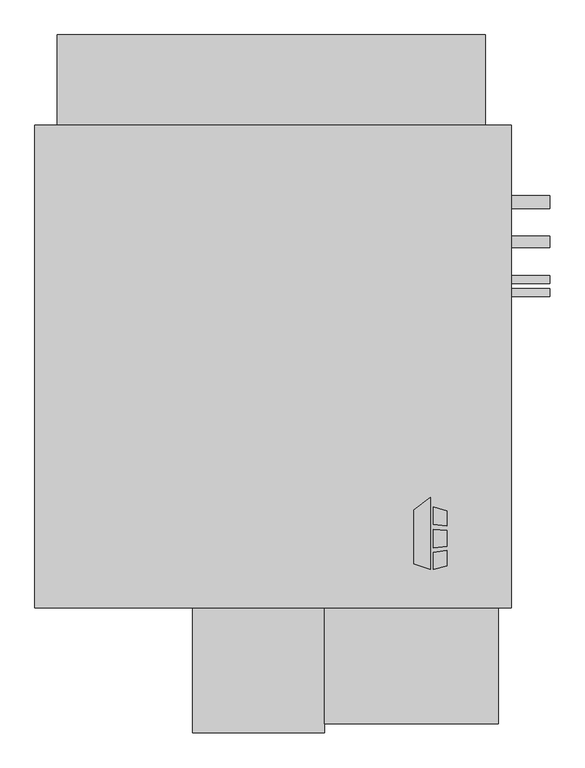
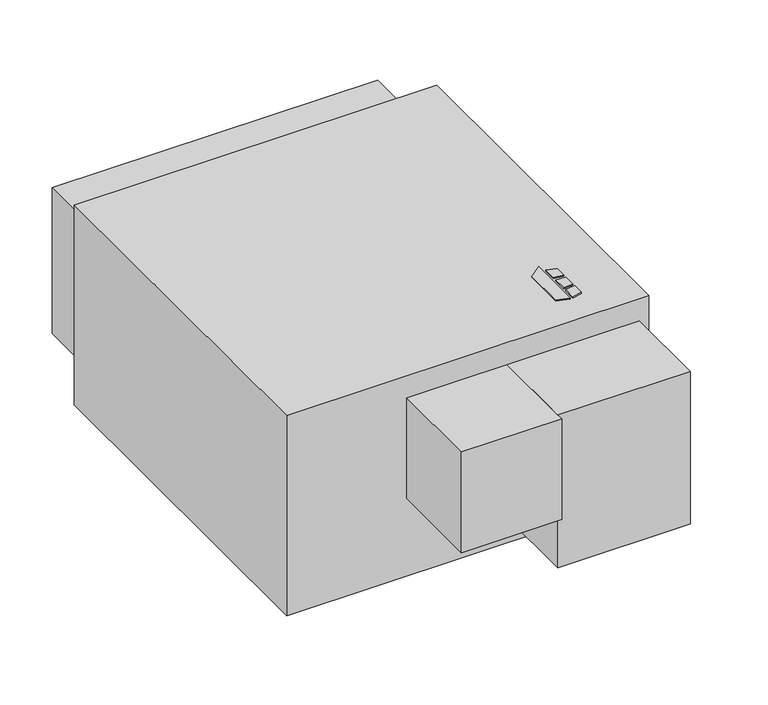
"""IFC4 building model written with IfcOpenShell, lengths in millimetres: proxy geometry, Horizontal_Direct_Drive_Blower_Coil_Unit_-_HDY_-_IEC_-_4-Pipe_RH_2022 : Size 10 - 460v/60Hz/3Ph - 6/2 Coil."""

from ifc_helpers import new_model, si_unit, point, frame, frame_2d, origin, origin_with_axes, place, context, project, spatial, polyline, circle_curve, trimmed, segment, composite_curve, outline, extrude, source, transform, mapped, element, save


def mechanical_equipment_957e46f4(model_context):
    return source(origin(), model_context, "Body", "SweptSolid", [
        extrude(outline(polyline([(-319.3980239, -267.6578476), (-286.8397272, -242.2205184), (-286.8397272, -384.175), (-319.3980239, -373.9554201), (-319.3980239, -267.6578476)])), origin_with_axes(), (0.0, 0.0, 1.0), 3.175),
        extrude(outline(polyline([(-280.0813942, -295.529852), (-280.0813942, -261.0499379), (-254.0, -269.2365115), (-254.0, -298.7322446), (-280.0813942, -295.529852)])), origin_with_axes(), (0.0, 0.0, 1.0), 3.175),
        extrude(outline(polyline([(-254.0, -377.1865115), (-280.0813942, -384.175), (-280.0813942, -350.9536996), (-254.0, -347.4118564), (-254.0, -377.1865115)])), origin_with_axes(), (0.0, 0.0, 1.0), 3.175),
        extrude(outline(polyline([(-254.0, -307.8138277), (-254.0, -339.063983), (-280.0813942, -341.805248), (-280.0813942, -305.9475378), (-254.0, -307.8138277)])), origin_with_axes(), (0.0, 0.0, 1.0), 3.175),
        extrude(outline(polyline([(-127.0, 492.125), (-127.0, -460.375), (-1066.8, -460.375), (-1066.8, 492.125), (-127.0, 492.125)])), frame((0.0, 0.0, -549.2558174), z_axis=(0.0, 0.0, 1.0), x_axis=(1.0, 0.0, 0.0)), (0.0, 0.0, 1.0), 549.2558174),
        extrude(outline(polyline([(-152.4, -688.975), (-495.3, -688.975), (-495.3, -460.375), (-152.4, -460.375), (-152.4, -688.975)])), frame((0.0, 0.0, -479.4058174), z_axis=(0.0, 0.0, 1.0), x_axis=(1.0, 0.0, 0.0)), (0.0, 0.0, 1.0), 419.1),
        extrude(outline(composite_curve([segment(trimmed(circle_curve(frame_2d((339.725, -180.7500418)), 12.7), [point((352.425, -180.7500418))], [point((327.025, -180.7500418))], False, "CARTESIAN"), True, "CONTINUOUS"), segment(trimmed(circle_curve(frame_2d((339.725, -180.7500418)), 12.7), [point((327.025, -180.7500418))], [point((352.425, -180.7500418))], False, "CARTESIAN"), True, "CONTINUOUS")], self_intersect=False)), frame((-127.0, 0.0, 0.0), z_axis=(1.0, 0.0, 0.0), x_axis=(0.0, 1.0, 0.0)), (0.0, 0.0, 1.0), 76.2),
        extrude(outline(composite_curve([segment(trimmed(circle_curve(frame_2d((339.725, -422.2558174)), 12.7), [point((352.425, -422.2558174))], [point((327.025, -422.2558174))], False, "CARTESIAN"), True, "CONTINUOUS"), segment(trimmed(circle_curve(frame_2d((339.725, -422.2558174)), 12.7), [point((327.025, -422.2558174))], [point((352.425, -422.2558174))], False, "CARTESIAN"), True, "CONTINUOUS")], self_intersect=False)), frame((-127.0, 0.0, 0.0), z_axis=(1.0, 0.0, 0.0), x_axis=(0.0, 1.0, 0.0)), (0.0, 0.0, 1.0), 76.2),
        extrude(outline(composite_curve([segment(trimmed(circle_curve(frame_2d((261.7604089, -504.8058174)), 11.1125), [point((272.8729089, -504.8058174))], [point((250.6479089, -504.8058174))], False, "CARTESIAN"), True, "CONTINUOUS"), segment(trimmed(circle_curve(frame_2d((261.7604089, -504.8058174)), 11.1125), [point((250.6479089, -504.8058174))], [point((272.8729089, -504.8058174))], False, "CARTESIAN"), True, "CONTINUOUS")], self_intersect=False)), frame((-127.0, 0.0, 0.0), z_axis=(1.0, 0.0, 0.0), x_axis=(0.0, 1.0, 0.0)), (0.0, 0.0, 1.0), 76.2),
        extrude(outline(composite_curve([segment(trimmed(circle_curve(frame_2d((187.325, -231.7558174)), 7.9375), [point((195.2625, -231.7558174))], [point((179.3875, -231.7558174))], False, "CARTESIAN"), True, "CONTINUOUS"), segment(trimmed(circle_curve(frame_2d((187.325, -231.7558174)), 7.9375), [point((179.3875, -231.7558174))], [point((195.2625, -231.7558174))], False, "CARTESIAN"), True, "CONTINUOUS")], self_intersect=False)), frame((-127.0, 0.0, 0.0), z_axis=(1.0, 0.0, 0.0), x_axis=(0.0, 1.0, 0.0)), (0.0, 0.0, 1.0), 76.2),
        extrude(outline(composite_curve([segment(trimmed(circle_curve(frame_2d((161.925, -371.4558174)), 7.9375), [point((169.8625, -371.4558174))], [point((153.9875, -371.4558174))], False, "CARTESIAN"), True, "CONTINUOUS"), segment(trimmed(circle_curve(frame_2d((161.925, -371.4558174)), 7.9375), [point((153.9875, -371.4558174))], [point((169.8625, -371.4558174))], False, "CARTESIAN"), True, "CONTINUOUS")], self_intersect=False)), frame((-127.0, 0.0, 0.0), z_axis=(1.0, 0.0, 0.0), x_axis=(0.0, 1.0, 0.0)), (0.0, 0.0, 1.0), 76.2),
        extrude(outline(polyline([(-1022.35, 669.925), (-177.8, 669.925), (-177.8, 492.125), (-1022.35, 492.125), (-1022.35, 669.925)])), frame((0.0, 0.0, -476.2308174), z_axis=(0.0, 0.0, 1.0), x_axis=(1.0, 0.0, 0.0)), (0.0, 0.0, 1.0), 400.05),
        extrude(outline(polyline([(-495.3, -706.4375), (-755.65, -706.4375), (-755.65, -460.375), (-495.3, -460.375), (-495.3, -706.4375)])), frame((0.0, 0.0, -336.5308174), z_axis=(0.0, 0.0, 1.0), x_axis=(1.0, 0.0, 0.0)), (0.0, 0.0, 1.0), 276.225),
    ])


if __name__ == "__main__":
    model = new_model("IFC4")
    model_context = context("Model", 3, world=origin())
    ifc_project = project(units=[si_unit("LENGTHUNIT", "METRE", prefix="MILLI")], contexts=[model_context])
    site = spatial("IfcSite", under=ifc_project)
    building = spatial("IfcBuilding", under=site)
    placement = place(None, origin())
    mechanical_equipment_shape = mechanical_equipment_957e46f4(model_context)
    element("IfcBuildingElementProxy", 1, Name="Horizontal_Direct_Drive_Blower_Coil_Unit_-_HDY_-_IEC_-_4-Pipe_RH_2022 : Size 10 - 460v/60Hz/3Ph - 6/2 Coil", ObjectType="Horizontal_Direct_Drive_Blower_Coil_Unit_-_HDY_-_IEC_-_4-Pipe_RH_2022 : Size 10 - 460v/60Hz/3Ph - 6/2 Coil", at=placement, inside=building, context=model_context, shape_type="MappedRepresentation", body=[
        mapped(mechanical_equipment_shape, transform((0.0, 0.0, 0.0), x_axis=(1.0, 0.0, 0.0), y_axis=(0.0, 1.0, 0.0), z_axis=(0.0, 0.0, 1.0))),
    ])
    save(model, "model.ifc")
